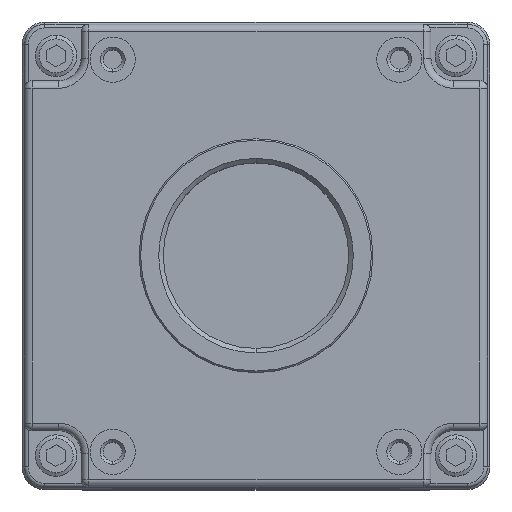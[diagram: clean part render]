
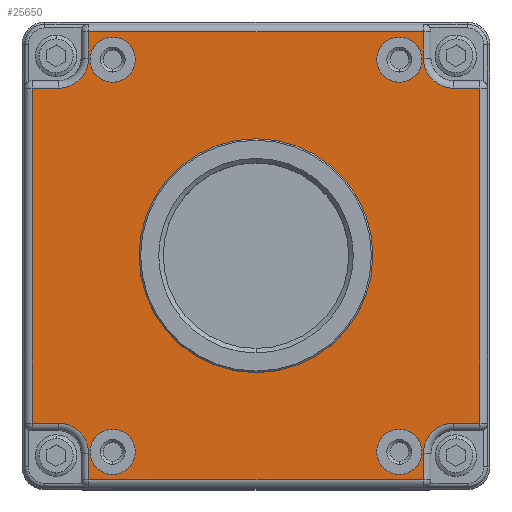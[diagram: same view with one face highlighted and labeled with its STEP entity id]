
A CAD part, top view. The second image highlights one B-rep face of the part: STEP entity #25650.
In plain terms, the highlighted planar face has unit normal (0, 0, 1).
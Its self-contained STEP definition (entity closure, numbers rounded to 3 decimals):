
#57=CARTESIAN_POINT('',(-26.2,26.2,26.7));
#58=DIRECTION('',(0.,0.,-1.));
#59=DIRECTION('',(1.,0.,0.));
#60=AXIS2_PLACEMENT_3D('',#57,#58,#59);
#62=CARTESIAN_POINT('',(26.2,26.2,26.7));
#63=DIRECTION('',(0.,0.,-1.));
#64=DIRECTION('',(0.,-1.,0.));
#65=AXIS2_PLACEMENT_3D('',#62,#63,#64);
#67=CARTESIAN_POINT('',(26.2,-26.2,26.7));
#68=DIRECTION('',(0.,0.,-1.));
#69=DIRECTION('',(-1.,0.,0.));
#70=AXIS2_PLACEMENT_3D('',#67,#68,#69);
#72=CARTESIAN_POINT('',(-26.2,-26.2,26.7));
#73=DIRECTION('',(0.,0.,-1.));
#74=DIRECTION('',(0.,1.,0.));
#75=AXIS2_PLACEMENT_3D('',#72,#73,#74);
#77=CARTESIAN_POINT('',(0.,0.,26.7));
#78=DIRECTION('',(0.,0.,-1.));
#79=DIRECTION('',(0.,1.,0.));
#80=AXIS2_PLACEMENT_3D('',#77,#78,#79);
#82=CARTESIAN_POINT('',(0.,0.,26.7));
#83=DIRECTION('',(0.,0.,-1.));
#84=DIRECTION('',(0.,-1.,0.));
#85=AXIS2_PLACEMENT_3D('',#82,#83,#84);
#87=CARTESIAN_POINT('',(-19.,-26.,26.7));
#88=DIRECTION('',(0.,0.,-1.));
#89=DIRECTION('',(1.,0.,0.));
#90=AXIS2_PLACEMENT_3D('',#87,#88,#89);
#92=CARTESIAN_POINT('',(-19.,-26.,26.7));
#93=DIRECTION('',(0.,0.,-1.));
#94=DIRECTION('',(-1.,0.,0.));
#95=AXIS2_PLACEMENT_3D('',#92,#93,#94);
#97=CARTESIAN_POINT('',(19.,-26.,26.7));
#98=DIRECTION('',(0.,0.,-1.));
#99=DIRECTION('',(1.,0.,0.));
#100=AXIS2_PLACEMENT_3D('',#97,#98,#99);
#102=CARTESIAN_POINT('',(19.,-26.,26.7));
#103=DIRECTION('',(0.,0.,-1.));
#104=DIRECTION('',(-1.,0.,0.));
#105=AXIS2_PLACEMENT_3D('',#102,#103,#104);
#107=CARTESIAN_POINT('',(-19.,26.,26.7));
#108=DIRECTION('',(0.,0.,-1.));
#109=DIRECTION('',(-1.,0.,0.));
#110=AXIS2_PLACEMENT_3D('',#107,#108,#109);
#112=CARTESIAN_POINT('',(-19.,26.,26.7));
#113=DIRECTION('',(0.,0.,-1.));
#114=DIRECTION('',(1.,0.,0.));
#115=AXIS2_PLACEMENT_3D('',#112,#113,#114);
#117=CARTESIAN_POINT('',(19.,26.,26.7));
#118=DIRECTION('',(0.,0.,-1.));
#119=DIRECTION('',(-1.,0.,0.));
#120=AXIS2_PLACEMENT_3D('',#117,#118,#119);
#122=CARTESIAN_POINT('',(19.,26.,26.7));
#123=DIRECTION('',(0.,0.,-1.));
#124=DIRECTION('',(1.,0.,0.));
#125=AXIS2_PLACEMENT_3D('',#122,#123,#124);
#127=DIRECTION('',(1.,0.,0.));
#128=VECTOR('',#127,3.5);
#129=CARTESIAN_POINT('',(-29.7,-22.2,26.7));
#130=LINE('',#129,#128);
#162=DIRECTION('',(0.,-1.,0.));
#163=VECTOR('',#162,3.5);
#164=CARTESIAN_POINT('',(-22.2,-26.2,26.7));
#165=LINE('',#164,#163);
#185=DIRECTION('',(1.,0.,0.));
#186=VECTOR('',#185,44.4);
#187=CARTESIAN_POINT('',(-22.2,-29.7,26.7));
#188=LINE('',#187,#186);
#204=DIRECTION('',(0.,1.,0.));
#205=VECTOR('',#204,3.5);
#206=CARTESIAN_POINT('',(22.2,-29.7,26.7));
#207=LINE('',#206,#205);
#239=DIRECTION('',(1.,0.,0.));
#240=VECTOR('',#239,3.5);
#241=CARTESIAN_POINT('',(26.2,-22.2,26.7));
#242=LINE('',#241,#240);
#258=DIRECTION('',(0.,1.,0.));
#259=VECTOR('',#258,44.4);
#260=CARTESIAN_POINT('',(29.7,-22.2,26.7));
#261=LINE('',#260,#259);
#320=DIRECTION('',(-1.,0.,0.));
#321=VECTOR('',#320,3.5);
#322=CARTESIAN_POINT('',(29.7,22.2,26.7));
#323=LINE('',#322,#321);
#332=DIRECTION('',(0.,1.,0.));
#333=VECTOR('',#332,3.5);
#334=CARTESIAN_POINT('',(22.2,26.2,26.7));
#335=LINE('',#334,#333);
#355=DIRECTION('',(-1.,0.,0.));
#356=VECTOR('',#355,44.4);
#357=CARTESIAN_POINT('',(22.2,29.7,26.7));
#358=LINE('',#357,#356);
#374=DIRECTION('',(0.,-1.,0.));
#375=VECTOR('',#374,3.5);
#376=CARTESIAN_POINT('',(-22.2,29.7,26.7));
#377=LINE('',#376,#375);
#409=DIRECTION('',(-1.,0.,0.));
#410=VECTOR('',#409,3.5);
#411=CARTESIAN_POINT('',(-26.2,22.2,26.7));
#412=LINE('',#411,#410);
#428=DIRECTION('',(0.,-1.,0.));
#429=VECTOR('',#428,44.4);
#430=CARTESIAN_POINT('',(-29.7,22.2,26.7));
#431=LINE('',#430,#429);
#20934=CARTESIAN_POINT('',(22.,-26.,26.7));
#20935=CARTESIAN_POINT('',(16.,-26.,26.7));
#20936=VERTEX_POINT('',#20934);
#20937=VERTEX_POINT('',#20935);
#20938=CARTESIAN_POINT('',(-29.7,-22.2,26.7));
#20939=CARTESIAN_POINT('',(-26.2,-22.2,26.7));
#20940=VERTEX_POINT('',#20938);
#20941=VERTEX_POINT('',#20939);
#20942=CARTESIAN_POINT('',(-29.7,22.2,26.7));
#20943=VERTEX_POINT('',#20942);
#20944=CARTESIAN_POINT('',(-26.2,22.2,26.7));
#20945=VERTEX_POINT('',#20944);
#20946=CARTESIAN_POINT('',(-22.2,26.2,26.7));
#20947=VERTEX_POINT('',#20946);
#20948=CARTESIAN_POINT('',(-22.2,29.7,26.7));
#20949=VERTEX_POINT('',#20948);
#20950=CARTESIAN_POINT('',(22.2,29.7,26.7));
#20951=VERTEX_POINT('',#20950);
#20952=CARTESIAN_POINT('',(22.2,26.2,26.7));
#20953=VERTEX_POINT('',#20952);
#20954=CARTESIAN_POINT('',(26.2,22.2,26.7));
#20955=VERTEX_POINT('',#20954);
#20956=CARTESIAN_POINT('',(29.7,22.2,26.7));
#20957=VERTEX_POINT('',#20956);
#20958=CARTESIAN_POINT('',(29.7,-22.2,26.7));
#20959=VERTEX_POINT('',#20958);
#20960=CARTESIAN_POINT('',(26.2,-22.2,26.7));
#20961=VERTEX_POINT('',#20960);
#20962=CARTESIAN_POINT('',(22.2,-26.2,26.7));
#20963=VERTEX_POINT('',#20962);
#20964=CARTESIAN_POINT('',(22.2,-29.7,26.7));
#20965=VERTEX_POINT('',#20964);
#20966=CARTESIAN_POINT('',(-22.2,-29.7,26.7));
#20967=VERTEX_POINT('',#20966);
#20968=CARTESIAN_POINT('',(-22.2,-26.2,26.7));
#20969=VERTEX_POINT('',#20968);
#20970=CARTESIAN_POINT('',(0.,15.5,26.7));
#20971=CARTESIAN_POINT('',(0.,-15.5,26.7));
#20972=VERTEX_POINT('',#20970);
#20973=VERTEX_POINT('',#20971);
#20974=CARTESIAN_POINT('',(-16.,-26.,26.7));
#20975=CARTESIAN_POINT('',(-22.,-26.,26.7));
#20976=VERTEX_POINT('',#20974);
#20977=VERTEX_POINT('',#20975);
#20978=CARTESIAN_POINT('',(-22.,26.,26.7));
#20979=CARTESIAN_POINT('',(-16.,26.,26.7));
#20980=VERTEX_POINT('',#20978);
#20981=VERTEX_POINT('',#20979);
#20982=CARTESIAN_POINT('',(16.,26.,26.7));
#20983=CARTESIAN_POINT('',(22.,26.,26.7));
#20984=VERTEX_POINT('',#20982);
#20985=VERTEX_POINT('',#20983);
#25582=CARTESIAN_POINT('',(0.,0.,26.7));
#25583=DIRECTION('',(0.,0.,1.));
#25584=DIRECTION('',(0.,-1.,0.));
#25585=AXIS2_PLACEMENT_3D('',#25582,#25583,#25584);
#25586=PLANE('',#25585);
#25588=ORIENTED_EDGE('',*,*,#25587,.F.);
#25590=ORIENTED_EDGE('',*,*,#25589,.F.);
#25592=ORIENTED_EDGE('',*,*,#25591,.F.);
#25594=ORIENTED_EDGE('',*,*,#25593,.F.);
#25596=ORIENTED_EDGE('',*,*,#25595,.F.);
#25598=ORIENTED_EDGE('',*,*,#25597,.F.);
#25600=ORIENTED_EDGE('',*,*,#25599,.F.);
#25602=ORIENTED_EDGE('',*,*,#25601,.F.);
#25604=ORIENTED_EDGE('',*,*,#25603,.F.);
#25606=ORIENTED_EDGE('',*,*,#25605,.F.);
#25608=ORIENTED_EDGE('',*,*,#25607,.F.);
#25610=ORIENTED_EDGE('',*,*,#25609,.F.);
#25612=ORIENTED_EDGE('',*,*,#25611,.F.);
#25614=ORIENTED_EDGE('',*,*,#25613,.F.);
#25616=ORIENTED_EDGE('',*,*,#25615,.F.);
#25618=ORIENTED_EDGE('',*,*,#25617,.F.);
#25619=EDGE_LOOP('',(#25588,#25590,#25592,#25594,#25596,#25598,#25600,#25602,
#25604,#25606,#25608,#25610,#25612,#25614,#25616,#25618));
#25620=FACE_OUTER_BOUND('',#25619,.F.);
#25622=ORIENTED_EDGE('',*,*,#25621,.F.);
#25624=ORIENTED_EDGE('',*,*,#25623,.F.);
#25625=EDGE_LOOP('',(#25622,#25624));
#25626=FACE_BOUND('',#25625,.F.);
#25628=ORIENTED_EDGE('',*,*,#25627,.F.);
#25630=ORIENTED_EDGE('',*,*,#25629,.F.);
#25631=EDGE_LOOP('',(#25628,#25630));
#25632=FACE_BOUND('',#25631,.F.);
#25633=ORIENTED_EDGE('',*,*,#25572,.F.);
#25635=ORIENTED_EDGE('',*,*,#25634,.F.);
#25636=EDGE_LOOP('',(#25633,#25635));
#25637=FACE_BOUND('',#25636,.F.);
#25639=ORIENTED_EDGE('',*,*,#25638,.F.);
#25641=ORIENTED_EDGE('',*,*,#25640,.F.);
#25642=EDGE_LOOP('',(#25639,#25641));
#25643=FACE_BOUND('',#25642,.F.);
#25645=ORIENTED_EDGE('',*,*,#25644,.F.);
#25647=ORIENTED_EDGE('',*,*,#25646,.F.);
#25648=EDGE_LOOP('',(#25645,#25647));
#25649=FACE_BOUND('',#25648,.F.);
#25650=ADVANCED_FACE('',(#25620,#25626,#25632,#25637,#25643,#25649),#25586,.T.);
#61=CIRCLE('',#60,4.);
#66=CIRCLE('',#65,4.);
#71=CIRCLE('',#70,4.);
#76=CIRCLE('',#75,4.);
#81=CIRCLE('',#80,15.5);
#86=CIRCLE('',#85,15.5);
#91=CIRCLE('',#90,3.);
#96=CIRCLE('',#95,3.);
#101=CIRCLE('',#100,3.);
#106=CIRCLE('',#105,3.);
#111=CIRCLE('',#110,3.);
#116=CIRCLE('',#115,3.);
#121=CIRCLE('',#120,3.);
#126=CIRCLE('',#125,3.);
#25572=EDGE_CURVE('',#20936,#20937,#101,.T.);
#25587=EDGE_CURVE('',#20940,#20941,#130,.T.);
#25589=EDGE_CURVE('',#20943,#20940,#431,.T.);
#25591=EDGE_CURVE('',#20945,#20943,#412,.T.);
#25593=EDGE_CURVE('',#20947,#20945,#61,.T.);
#25595=EDGE_CURVE('',#20949,#20947,#377,.T.);
#25597=EDGE_CURVE('',#20951,#20949,#358,.T.);
#25599=EDGE_CURVE('',#20953,#20951,#335,.T.);
#25601=EDGE_CURVE('',#20955,#20953,#66,.T.);
#25603=EDGE_CURVE('',#20957,#20955,#323,.T.);
#25605=EDGE_CURVE('',#20959,#20957,#261,.T.);
#25607=EDGE_CURVE('',#20961,#20959,#242,.T.);
#25609=EDGE_CURVE('',#20963,#20961,#71,.T.);
#25611=EDGE_CURVE('',#20965,#20963,#207,.T.);
#25613=EDGE_CURVE('',#20967,#20965,#188,.T.);
#25615=EDGE_CURVE('',#20969,#20967,#165,.T.);
#25617=EDGE_CURVE('',#20941,#20969,#76,.T.);
#25621=EDGE_CURVE('',#20972,#20973,#81,.T.);
#25623=EDGE_CURVE('',#20973,#20972,#86,.T.);
#25627=EDGE_CURVE('',#20976,#20977,#91,.T.);
#25629=EDGE_CURVE('',#20977,#20976,#96,.T.);
#25634=EDGE_CURVE('',#20937,#20936,#106,.T.);
#25638=EDGE_CURVE('',#20980,#20981,#111,.T.);
#25640=EDGE_CURVE('',#20981,#20980,#116,.T.);
#25644=EDGE_CURVE('',#20984,#20985,#121,.T.);
#25646=EDGE_CURVE('',#20985,#20984,#126,.T.);
